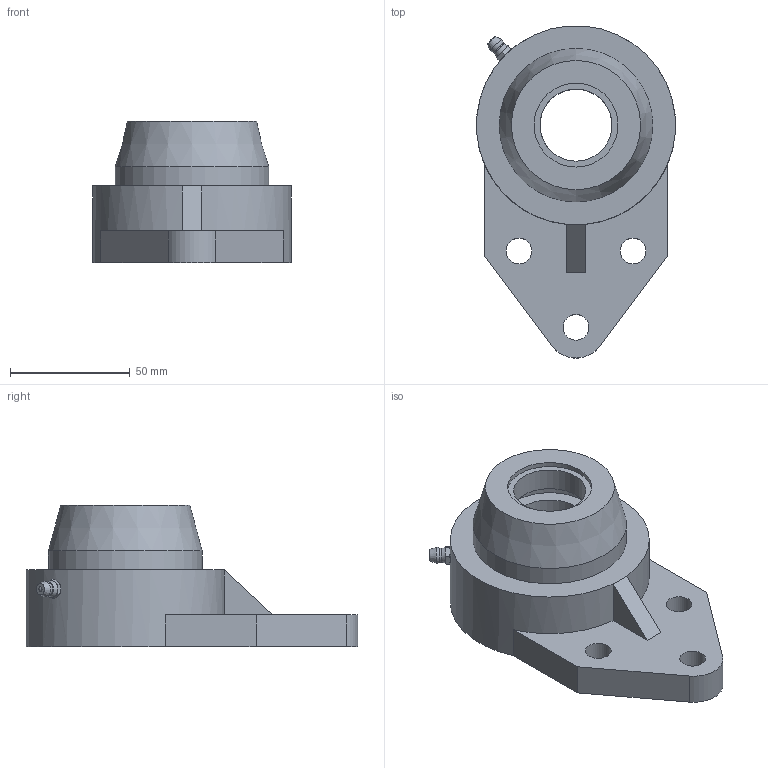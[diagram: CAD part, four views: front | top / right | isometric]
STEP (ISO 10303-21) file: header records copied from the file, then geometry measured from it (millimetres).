
FILE_DESCRIPTION(/* description */ (''),/* implementation_level */ '2;1');
FILE_NAME(/* name */ 'C:\Users\UGijyutu_200702\Desktop\77.プラスチックハウジング\MBFBL200V\MBFBL200VC\MBFBL206VC.stp',/* time_stamp */ '2023-05-08T16:17:51+09:00',/* author */ ('UGijyutu_200702'),/* organization */ (''),/* preprocessor_version */ 'ST-DEVELOPER v18',/* originating_system */ 'Autodesk Inventor 2020',/* authorisation */ '');
FILE_SCHEMA (('AUTOMOTIVE_DESIGN { 1 0 10303 214 3 1 1 }'));
Length unit declared in the file: millimetre
Products named in the file (5): MBFBL206VC; FBL206; MB6 V; 1/4-28UNF-2A; 206C
Assembly tree (4 placements, depth 2):
  MBFBL206VC
    FBL206
    MB6 V
    1/4-28UNF-2A
    206C
Bounding box: 82.81 x 138.3 x 58.9 mm (x, y, z)
Volume: 180622.4 mm3; surface area: 58583.4 mm2
Topology: 4 solids, 4 shells, 96 faces, 234 edges, 161 vertices
Faces by surface type: plane 49, cylinder 24, cone 17, sphere 4, torus 2
Full cylindrical faces by diameter (mm): 3.2 x1, 4.978 x1, 5 x2, 6.35 x1, 10.7 x3, 30 x2, 35 x1, 40.5 x1, 46 x1, 60 x1, 63.8 x2, 64 x1, 72 x1
Entity records: 3325 total; most frequent: CARTESIAN_POINT 754, DIRECTION 511, ORIENTED_EDGE 466, EDGE_CURVE 233, AXIS2_PLACEMENT_3D 211, VERTEX_POINT 161, EDGE_LOOP 126, CIRCLE 106
